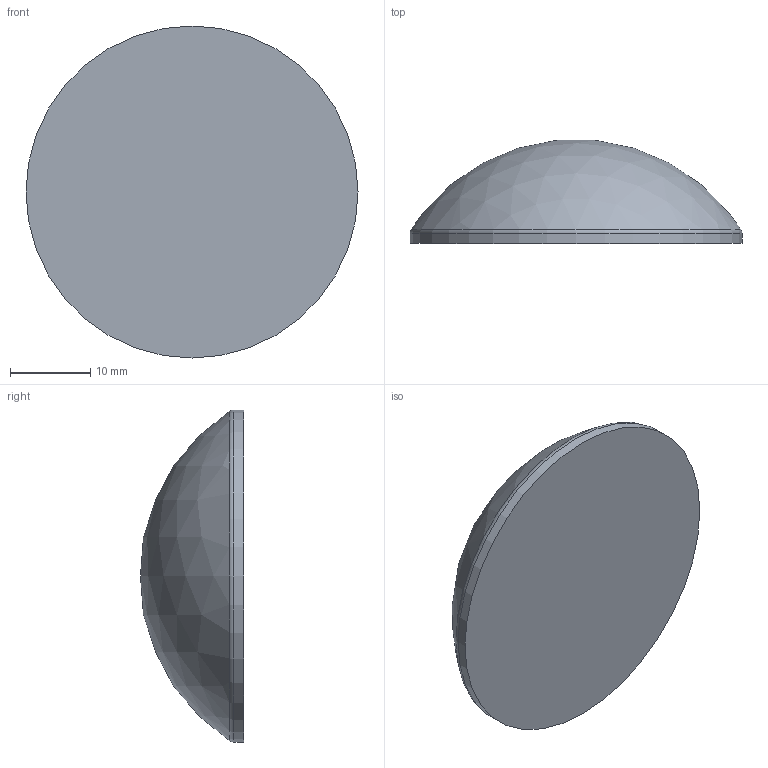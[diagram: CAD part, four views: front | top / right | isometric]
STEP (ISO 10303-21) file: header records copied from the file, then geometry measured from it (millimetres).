
FILE_DESCRIPTION(/* description */ (''),/* implementation_level */ '2;1');
FILE_NAME(/* name */ '\\NAS\db20\PR22-42B\DR_PR22-42B.stp',/* time_stamp */ '2017-09-25T15:40:46+09:00',/* author */ ('user'),/* organization */ (''),/* preprocessor_version */ 'ST-DEVELOPER v15.6',/* originating_system */ 'Autodesk Inventor 2015',/* authorisation */ '');
FILE_SCHEMA (('AUTOMOTIVE_DESIGN { 1 0 10303 214 3 1 1 }'));
Length unit declared in the file: millimetre
Products named in the file (1): DR_PR22-42B
Bounding box: 41.5 x 12.88 x 41.5 mm (x, y, z)
Volume: 10601.3 mm3; surface area: 3314.1 mm2
Topology: 1 solids, 1 shells, 4 faces, 5 edges, 3 vertices
Faces by surface type: torus 1, cylinder 1, sphere 1, plane 1
Full cylindrical faces by diameter (mm): 41.5 x1
Entity records: 98 total; most frequent: DIRECTION 16, CARTESIAN_POINT 11, AXIS2_PLACEMENT_3D 8, EDGE_LOOP 6, ORIENTED_EDGE 6, FACE_OUTER_BOUND 4, ADVANCED_FACE 4, CIRCLE 3
